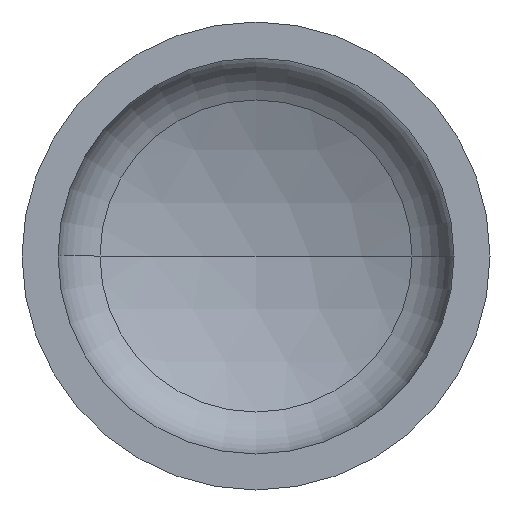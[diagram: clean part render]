
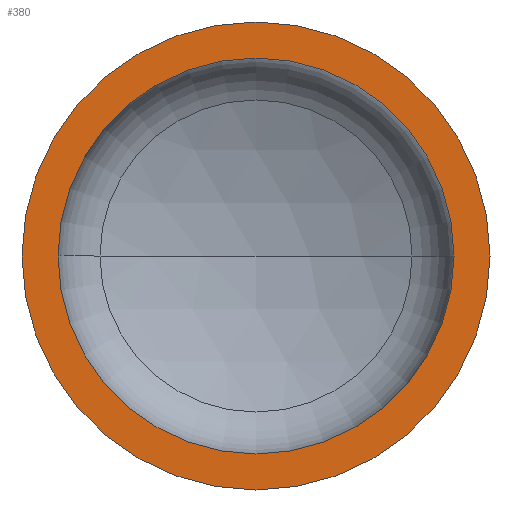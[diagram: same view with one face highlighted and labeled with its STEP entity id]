
A CAD part, front view. The second image highlights one B-rep face of the part: STEP entity #380.
In plain terms, the highlighted planar face has unit normal (0, -1, 0).
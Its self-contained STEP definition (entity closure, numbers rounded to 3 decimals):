
#4 = EDGE_LOOP ( 'NONE', ( #24, #83 ) ) ;
#23 = VERTEX_POINT ( 'NONE', #298 ) ;
#24 = ORIENTED_EDGE ( 'NONE', *, *, #392, .T. ) ;
#30 = VERTEX_POINT ( 'NONE', #359 ) ;
#36 = EDGE_LOOP ( 'NONE', ( #89, #179 ) ) ;
#64 = AXIS2_PLACEMENT_3D ( 'NONE', #227, #410, #273 ) ;
#77 = VERTEX_POINT ( 'NONE', #295 ) ;
#80 = PLANE ( 'NONE',  #64 ) ;
#83 = ORIENTED_EDGE ( 'NONE', *, *, #135, .T. ) ;
#89 = ORIENTED_EDGE ( 'NONE', *, *, #138, .F. ) ;
#113 = AXIS2_PLACEMENT_3D ( 'NONE', #309, #308, #301 ) ;
#115 = AXIS2_PLACEMENT_3D ( 'NONE', #371, #307, #306 ) ;
#122 = AXIS2_PLACEMENT_3D ( 'NONE', #324, #323, #320 ) ;
#130 = EDGE_CURVE ( 'NONE', #300, #30, #293, .T. ) ;
#135 = EDGE_CURVE ( 'NONE', #23, #77, #345, .T. ) ;
#138 = EDGE_CURVE ( 'NONE', #30, #300, #284, .T. ) ;
#165 = AXIS2_PLACEMENT_3D ( 'NONE', #246, #404, #267 ) ;
#179 = ORIENTED_EDGE ( 'NONE', *, *, #130, .F. ) ;
#227 = CARTESIAN_POINT ( 'NONE',  ( -650., 0., 0. ) ) ;
#231 = FACE_OUTER_BOUND ( 'NONE', #4, .T. ) ;
#246 = CARTESIAN_POINT ( 'NONE',  ( 0., 0., 0. ) ) ;
#267 = DIRECTION ( 'NONE',  ( 1., 0., 0. ) ) ;
#273 = DIRECTION ( 'NONE',  ( -1., 0., 0. ) ) ;
#281 = CARTESIAN_POINT ( 'NONE',  ( -550., 0., 0. ) ) ;
#284 = CIRCLE ( 'NONE', #113, 550. ) ;
#293 = CIRCLE ( 'NONE', #122, 550. ) ;
#295 = CARTESIAN_POINT ( 'NONE',  ( 650., 0., 0. ) ) ;
#298 = CARTESIAN_POINT ( 'NONE',  ( -650., 0., 0. ) ) ;
#300 = VERTEX_POINT ( 'NONE', #281 ) ;
#301 = DIRECTION ( 'NONE',  ( 1., 0., 0. ) ) ;
#306 = DIRECTION ( 'NONE',  ( 1., 0., 0. ) ) ;
#307 = DIRECTION ( 'NONE',  ( 0., -1., 0. ) ) ;
#308 = DIRECTION ( 'NONE',  ( 0., -1., 0. ) ) ;
#309 = CARTESIAN_POINT ( 'NONE',  ( 0., 0., 0. ) ) ;
#320 = DIRECTION ( 'NONE',  ( 1., 0., 0. ) ) ;
#323 = DIRECTION ( 'NONE',  ( 0., -1., 0. ) ) ;
#324 = CARTESIAN_POINT ( 'NONE',  ( 0., 0., 0. ) ) ;
#345 = CIRCLE ( 'NONE', #115, 650. ) ;
#359 = CARTESIAN_POINT ( 'NONE',  ( 550., 0., 0. ) ) ;
#371 = CARTESIAN_POINT ( 'NONE',  ( 0., 0., 0. ) ) ;
#380 = ADVANCED_FACE ( 'NONE', ( #411, #231 ), #80, .F. ) ;
#392 = EDGE_CURVE ( 'NONE', #77, #23, #402, .T. ) ;
#402 = CIRCLE ( 'NONE', #165, 650. ) ;
#404 = DIRECTION ( 'NONE',  ( 0., -1., 0. ) ) ;
#410 = DIRECTION ( 'NONE',  ( 0., 1., 0. ) ) ;
#411 = FACE_BOUND ( 'NONE', #36, .T. ) ;
